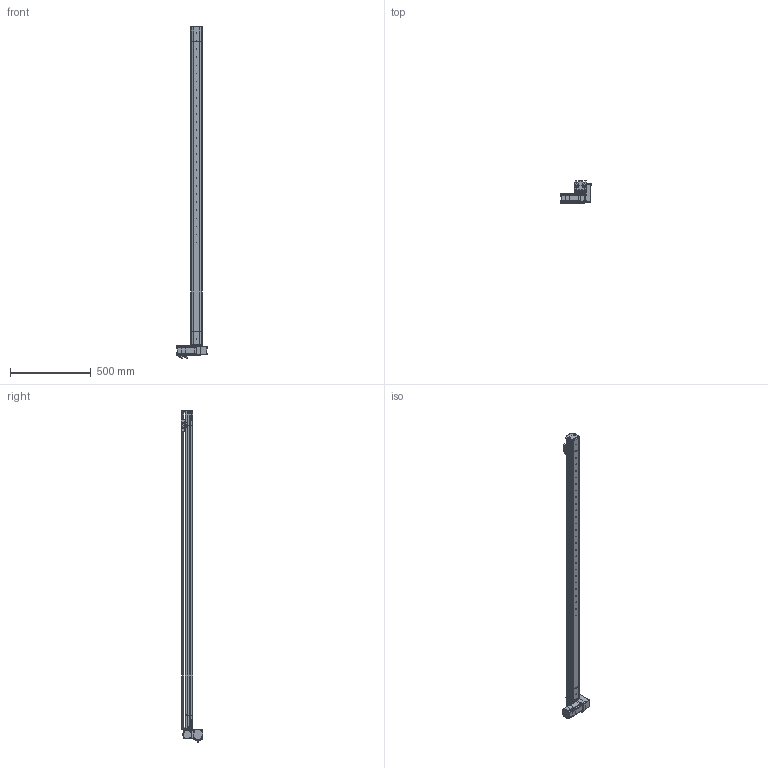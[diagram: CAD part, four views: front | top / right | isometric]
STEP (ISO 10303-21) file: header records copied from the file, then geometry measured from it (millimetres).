
FILE_DESCRIPTION (( 'STEP AP214' ), '1' );
FILE_NAME ('S07 TBN LU S1800.STEP', '2010-06-29T12:21:26', ( 'Conseil Régional Haute-Normandie' ), ( 'Conseil Régional Haute-Normandie' ), 'SwSTEP 2.0', 'SolidWorks 2010', '' );
FILE_SCHEMA (( 'AUTOMOTIVE_DESIGN' ));
Length unit declared in the file: millimetre
Products named in the file (41): plaque de bout_Default; couvercle tail TB; Poulie_Default; T皻e de poulie_Default; vis M5 L12_Default; vis M5 L16_Default; couroie tail_Default; Chariot; guide; CHariot_Default; Course C L1800_Default; S07 TBN LU S1800; couvercle S07 course 1800 ; Couroie  course 1800_Default; Corp S07 course 1800_Default; plaque de bout LU_Default; corp moteur TB(146)_Default; S07 LU(146)_Default; Poulie head_Default; cache t皻e axe_Default; couvercle moteur S07 TB; Pièce5^S07 LU(146); vis M5 L5_Default; cache t皻e_Default; corp tail TB_Default; Couroie t皻e_Default; S07 TB tail (78)_Default; Cvis M5 L30_Default; VisM3_Default; Vis M5 L16-2_Default; Conecteur2 60BLDC_Default; Conecteur 60BLDC_Default; Axe 60BLDC_Default; P1_Default; GMB 60 90 310_Default; renvoi LU_Default; P4_Default; P3 90A_Default; P2 90A_Default; Plaque racord_Default
Assembly tree (80 placements, depth 4):
  S07 TBN LU S1800
    CHariot_Default
      guide
      Chariot
      vis M5 L16_Default  x2
    S07 LU(146)_Default
      cache t皻e_Default  x2
      Vis M5 L16-2_Default  x8
      vis M5 L12_Default  x6
      vis M5 L5_Default  x6
      couvercle moteur S07 TB
      Plaque racord_Default
      plaque de bout LU_Default
      Couroie t皻e_Default
      Cvis M5 L30_Default  x2
      Poulie head_Default
      GMB 60 90 310_Default
        VisM3_Default  x12
        P2 90A_Default
        Conecteur 60BLDC_Default
        Conecteur2 60BLDC_Default
        P4_Default
        P3 90A_Default
        Axe 60BLDC_Default
        P1_Default
      renvoi LU_Default
      cache t皻e axe_Default
      corp moteur TB(146)_Default
    Course C L1800_Default
      Couroie  course 1800_Default
      couvercle S07 course 1800 
      Corp S07 course 1800_Default
    S07 TB tail (78)_Default
      couroie tail_Default
      Poulie_Default
        T皻e de poulie_Default
        Poulie_Default
      vis M5 L12_Default  x10
      plaque de bout_Default
      couvercle tail TB
      corp tail TB_Default
  Pièce5^S07 LU(146)
Bounding box: 190.2 x 134.7 x 2062 mm (x, y, z)
Volume: 3893147.7 mm3; surface area: 1721057.7 mm2
Topology: 102 solids, 102 shells, 3950 faces, 9834 edges, 6353 vertices
Faces by surface type: plane 2239, cylinder 781, bspline 677, cone 125, torus 124, sphere 4
Entity records: 168029 total; most frequent: CARTESIAN_POINT 75331, ORIENTED_EDGE 15580, DIRECTION 12459, EDGE_CURVE 7790, VERTEX_POINT 5141, LINE 5065, VECTOR 5065, AXIS2_PLACEMENT_3D 3697
